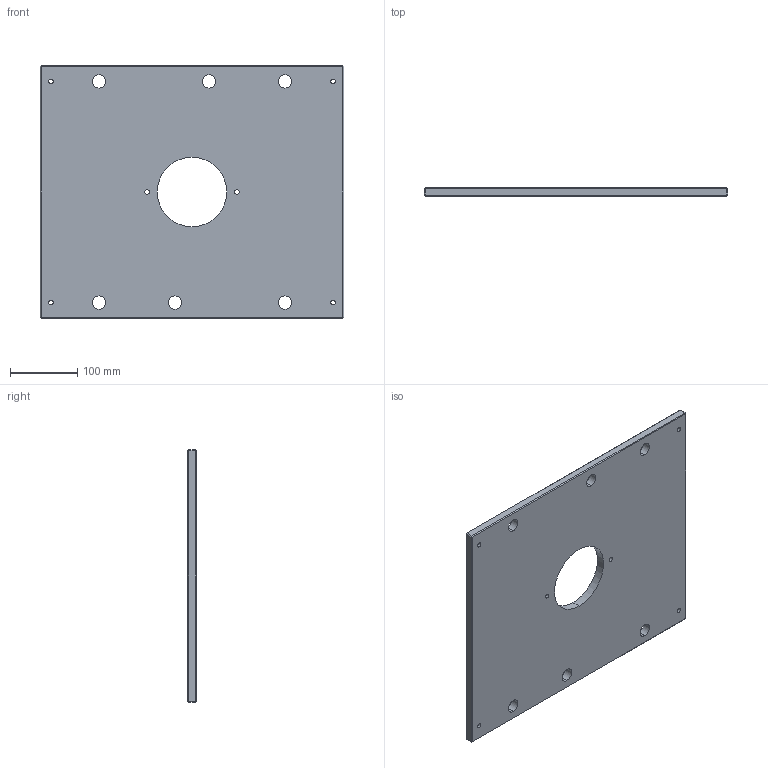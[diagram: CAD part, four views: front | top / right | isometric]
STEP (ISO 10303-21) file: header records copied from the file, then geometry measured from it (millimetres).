
FILE_DESCRIPTION (( 'STEP AP214' ), '1' );
FILE_NAME ('ME-0619-CH-1518-B.STEP', '2020-02-12T14:26:45', ( '' ), ( '' ), 'SwSTEP 2.0', 'SolidWorks 2018', '' );
FILE_SCHEMA (( 'AUTOMOTIVE_DESIGN' ));
Length unit declared in the file: inch
Products named in the file (1): ME-0619-CH-1518-B
Bounding box: 450.85 x 12.7 x 374.65 mm (x, y, z)
Volume: 2008683.7 mm3; surface area: 345766.4 mm2
Topology: 1 solids, 1 shells, 64 faces, 150 edges, 88 vertices
Faces by surface type: cylinder 26, plane 26, cone 12
Entity records: 1902 total; most frequent: DIRECTION 344, CARTESIAN_POINT 303, ORIENTED_EDGE 300, EDGE_CURVE 150, AXIS2_PLACEMENT_3D 129, EDGE_LOOP 90, VERTEX_POINT 88, VECTOR 86
